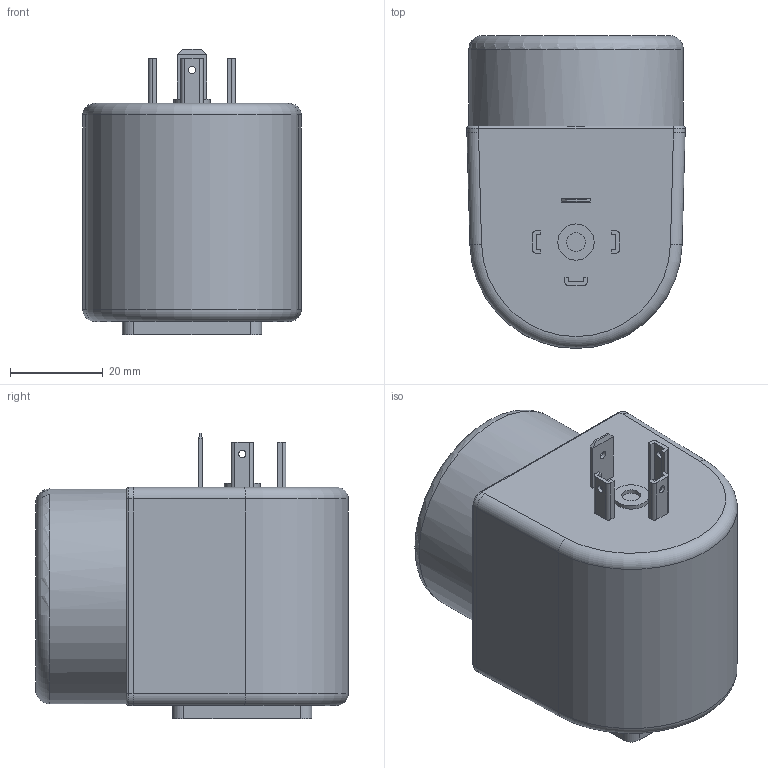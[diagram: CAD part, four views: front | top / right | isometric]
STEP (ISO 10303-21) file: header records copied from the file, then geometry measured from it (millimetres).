
FILE_DESCRIPTION(/* description */ (''),/* implementation_level */ '2;1');
FILE_NAME(/* name */ 'W:\Obchodni usek\MARKETING\3D Modely\PA 430\PA430_ISO4400_standard.stp',/* time_stamp */ '2016-02-18T11:15:00+01:00',/* author */ ('cz1166'),/* organization */ (''),/* preprocessor_version */ 'ST-DEVELOPER v15.2',/* originating_system */ 'Autodesk Inventor 2014',/* authorisation */ '');
FILE_SCHEMA (('AUTOMOTIVE_DESIGN { 1 0 10303 214 3 1 1 }'));
Length unit declared in the file: millimetre
Products named in the file (1): PA430_ISO4400_standard
Bounding box: 47 x 67.35 x 61.6 mm (x, y, z)
Volume: 127092 mm3; surface area: 16105 mm2
Topology: 1 solids, 1 shells, 283 faces, 708 edges, 464 vertices
Faces by surface type: plane 220, cylinder 52, torus 7, bspline 4
Full cylindrical faces by diameter (mm): 1.562 x1, 1.6 x4, 4 x1, 7.8 x1, 22 x1, 46.3 x1
Entity records: 8895 total; most frequent: CARTESIAN_POINT 1757, ORIENTED_EDGE 1392, DIRECTION 1375, EDGE_CURVE 696, LINE 567, VECTOR 567, VERTEX_POINT 462, AXIS2_PLACEMENT_3D 404
